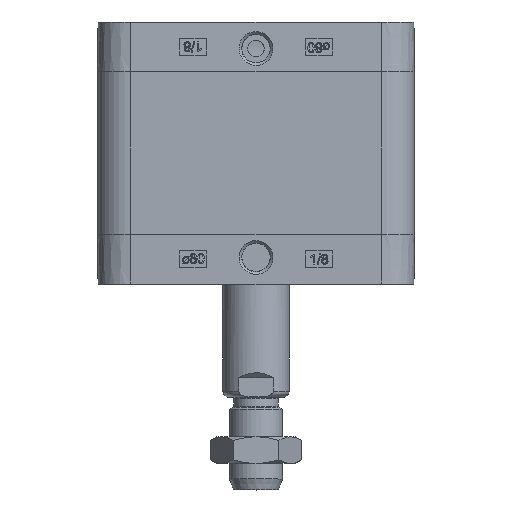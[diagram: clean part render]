
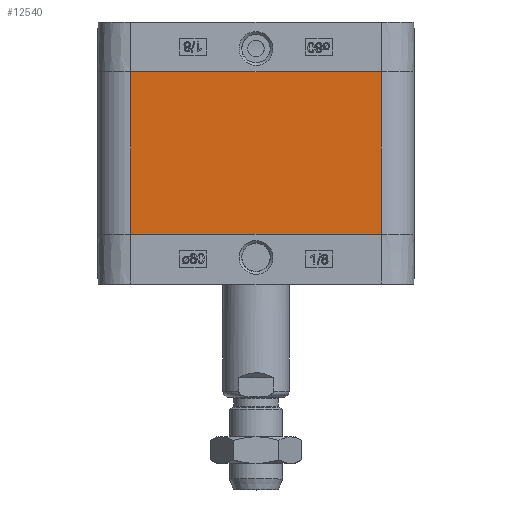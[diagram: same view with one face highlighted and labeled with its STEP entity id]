
A CAD part, top view. The second image highlights one B-rep face of the part: STEP entity #12540.
In plain terms, the highlighted planar face has unit normal (0, 0, 1) as drawn and (-1, 0, 0) by its records, which use the part's own axes.
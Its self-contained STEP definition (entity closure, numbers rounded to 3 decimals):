
#1257=ORIENTED_EDGE('',*,*,#4993,.T.);
#1258=ORIENTED_EDGE('',*,*,#4992,.F.);
#1259=ORIENTED_EDGE('',*,*,#4994,.F.);
#1260=ORIENTED_EDGE('',*,*,#4995,.T.);
#4992=EDGE_CURVE('',#6860,#6857,#8150,.T.);
#4993=EDGE_CURVE('',#6861,#6857,#8151,.T.);
#4994=EDGE_CURVE('',#6862,#6860,#8152,.T.);
#4995=EDGE_CURVE('',#6862,#6861,#8153,.T.);
#6857=VERTEX_POINT('',#22325);
#6860=VERTEX_POINT('',#22330);
#6861=VERTEX_POINT('',#22334);
#6862=VERTEX_POINT('',#22336);
#8150=LINE('',#22331,#9224);
#8151=LINE('',#22333,#9225);
#8152=LINE('',#22335,#9226);
#8153=LINE('',#22337,#9227);
#9224=VECTOR('',#18970,1000.);
#9225=VECTOR('',#18973,1000.);
#9226=VECTOR('',#18974,1000.);
#9227=VECTOR('',#18975,1000.);
#10295=EDGE_LOOP('',(#1257,#1258,#1259,#1260));
#11243=FACE_BOUND('',#10295,.T.);
#12190=PLANE('',#17818);
#12540=ADVANCED_FACE('',(#11243),#12190,.T.);
#17818=AXIS2_PLACEMENT_3D('',#22332,#18971,#18972);
#18970=DIRECTION('',(0.,0.,1.));
#18971=DIRECTION('',(-1.,0.,0.));
#18972=DIRECTION('',(0.,0.,1.));
#18973=DIRECTION('',(0.,1.,0.));
#18974=DIRECTION('',(0.,1.,0.));
#18975=DIRECTION('',(0.,0.,1.));
#22325=CARTESIAN_POINT('',(-47.75,37.75,29.));
#22330=CARTESIAN_POINT('',(-47.75,37.75,-20.));
#22331=CARTESIAN_POINT('',(-47.75,37.75,0.));
#22332=CARTESIAN_POINT('',(-47.75,-37.75,0.));
#22333=CARTESIAN_POINT('',(-47.75,-37.75,29.));
#22334=CARTESIAN_POINT('',(-47.75,-37.75,29.));
#22335=CARTESIAN_POINT('',(-47.75,-37.75,-20.));
#22336=CARTESIAN_POINT('',(-47.75,-37.75,-20.));
#22337=CARTESIAN_POINT('',(-47.75,-37.75,0.));
